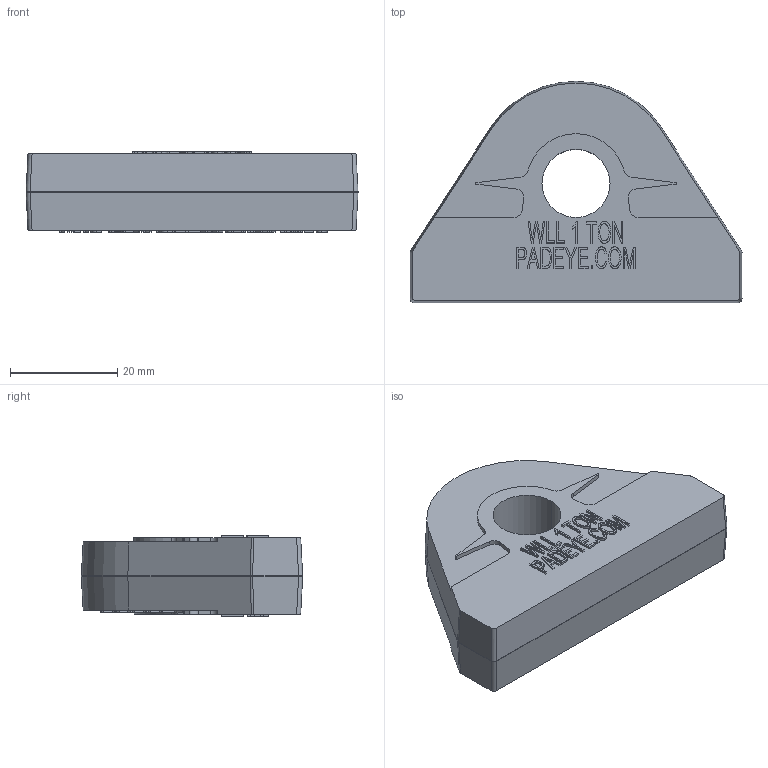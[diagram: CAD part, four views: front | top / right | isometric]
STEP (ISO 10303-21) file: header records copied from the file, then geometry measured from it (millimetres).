
FILE_DESCRIPTION (( 'STEP AP214' ), '1' );
FILE_NAME ('CSB.STEP', '2024-04-23T14:06:55', ( '' ), ( '' ), 'SwSTEP 2.0', 'SolidWorks 2018', '' );
FILE_SCHEMA (( 'AUTOMOTIVE_DESIGN' ));
Length unit declared in the file: inch
Products named in the file (1): CSB
Bounding box: 61.91 x 41.27 x 15.05 mm (x, y, z)
Volume: 23529.7 mm3; surface area: 6793.5 mm2
Topology: 1 solids, 1 shells, 804 faces, 2164 edges, 1434 vertices
Faces by surface type: plane 589, bspline 142, cylinder 63, sphere 4, torus 4, cone 2
Entity records: 31989 total; most frequent: CARTESIAN_POINT 12678, ORIENTED_EDGE 4320, DIRECTION 3311, EDGE_CURVE 2160, LINE 1741, VECTOR 1741, VERTEX_POINT 1432, EDGE_LOOP 880
